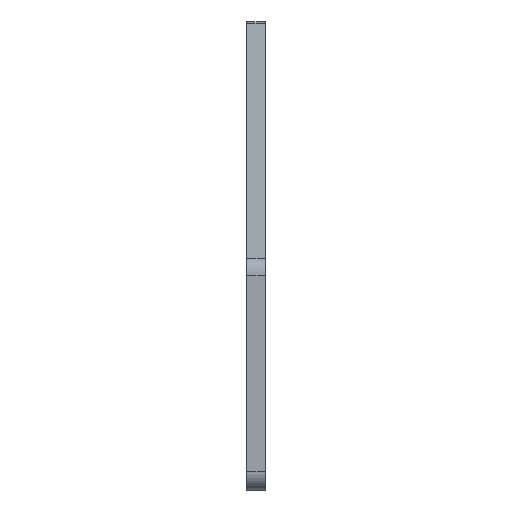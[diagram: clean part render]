
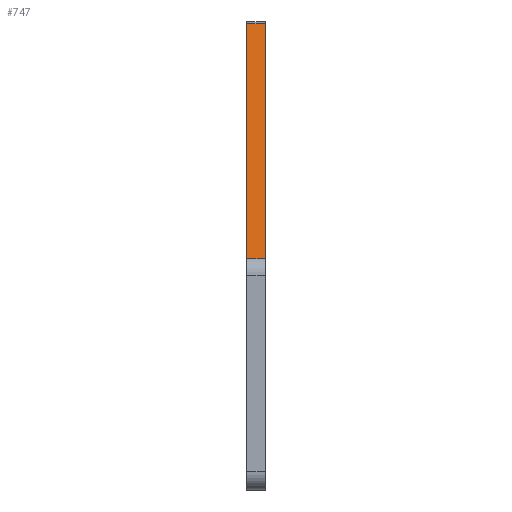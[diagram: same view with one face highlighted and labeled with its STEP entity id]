
A CAD part, left-side view. The second image highlights one B-rep face of the part: STEP entity #747.
In plain terms, the highlighted planar face has unit normal (-0.447, 0, 0.894).
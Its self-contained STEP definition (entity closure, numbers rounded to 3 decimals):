
#35 = DIRECTION ( 'NONE',  ( -0.894, 0., -0.447 ) ) ;
#42 = EDGE_CURVE ( 'NONE', #464, #79, #908, .T. ) ;
#79 = VERTEX_POINT ( 'NONE', #752 ) ;
#146 = ORIENTED_EDGE ( 'NONE', *, *, #283, .F. ) ;
#205 = DIRECTION ( 'NONE',  ( 0., 1., 0. ) ) ;
#283 = EDGE_CURVE ( 'NONE', #79, #485, #667, .T. ) ;
#298 = CARTESIAN_POINT ( 'NONE',  ( -96.342, 3., 19.593 ) ) ;
#375 = PLANE ( 'NONE',  #881 ) ;
#377 = ORIENTED_EDGE ( 'NONE', *, *, #42, .F. ) ;
#382 = CARTESIAN_POINT ( 'NONE',  ( -19.528, 0., 58. ) ) ;
#413 = CARTESIAN_POINT ( 'NONE',  ( -20.161, 3., 57.683 ) ) ;
#414 = EDGE_LOOP ( 'NONE', ( #419, #589, #146, #377 ) ) ;
#419 = ORIENTED_EDGE ( 'NONE', *, *, #673, .T. ) ;
#438 = CARTESIAN_POINT ( 'NONE',  ( -19.528, 3., 58. ) ) ;
#441 = DIRECTION ( 'NONE',  ( -0.447, 0., 0.894 ) ) ;
#464 = VERTEX_POINT ( 'NONE', #413 ) ;
#485 = VERTEX_POINT ( 'NONE', #939 ) ;
#488 = EDGE_CURVE ( 'NONE', #485, #659, #871, .T. ) ;
#508 = DIRECTION ( 'NONE',  ( 0., -1., 0. ) ) ;
#562 = VECTOR ( 'NONE', #35, 1000. ) ;
#589 = ORIENTED_EDGE ( 'NONE', *, *, #488, .F. ) ;
#596 = DIRECTION ( 'NONE',  ( -0.894, 0., -0.447 ) ) ;
#607 = VECTOR ( 'NONE', #508, 1000. ) ;
#649 = CARTESIAN_POINT ( 'NONE',  ( -96.342, 0., 19.593 ) ) ;
#659 = VERTEX_POINT ( 'NONE', #298 ) ;
#667 = LINE ( 'NONE', #848, #562 ) ;
#673 = EDGE_CURVE ( 'NONE', #464, #659, #833, .T. ) ;
#733 = CARTESIAN_POINT ( 'NONE',  ( -20.161, 0., 57.683 ) ) ;
#747 = ADVANCED_FACE ( 'NONE', ( #930 ), #375, .T. ) ;
#752 = CARTESIAN_POINT ( 'NONE',  ( -20.161, 0., 57.683 ) ) ;
#833 = LINE ( 'NONE', #438, #845 ) ;
#845 = VECTOR ( 'NONE', #957, 1000. ) ;
#848 = CARTESIAN_POINT ( 'NONE',  ( -19.528, 0., 58. ) ) ;
#856 = VECTOR ( 'NONE', #205, 1000. ) ;
#871 = LINE ( 'NONE', #649, #856 ) ;
#881 = AXIS2_PLACEMENT_3D ( 'NONE', #382, #441, #596 ) ;
#908 = LINE ( 'NONE', #733, #607 ) ;
#930 = FACE_OUTER_BOUND ( 'NONE', #414, .T. ) ;
#939 = CARTESIAN_POINT ( 'NONE',  ( -96.342, 0., 19.593 ) ) ;
#957 = DIRECTION ( 'NONE',  ( -0.894, 0., -0.447 ) ) ;
